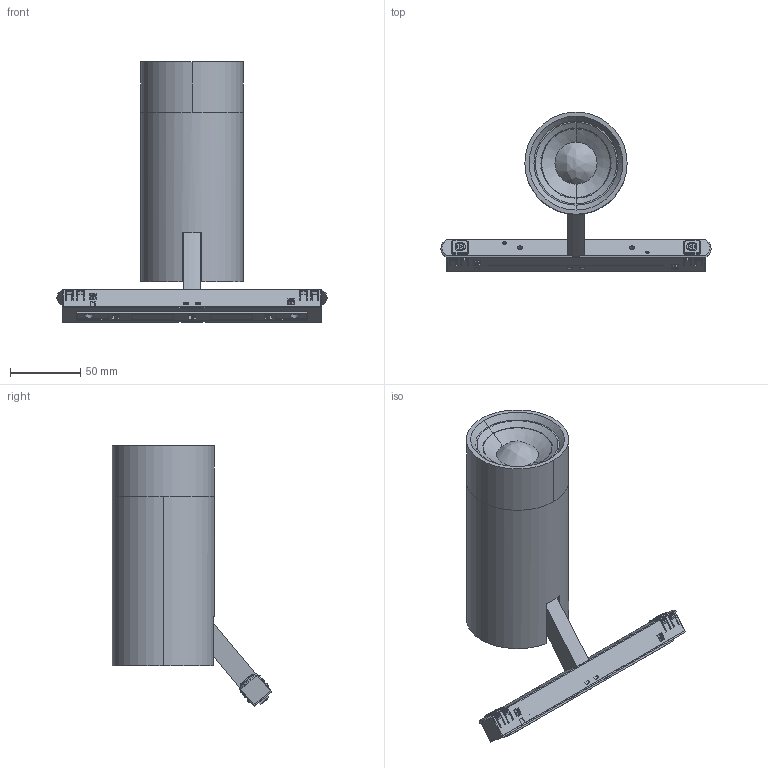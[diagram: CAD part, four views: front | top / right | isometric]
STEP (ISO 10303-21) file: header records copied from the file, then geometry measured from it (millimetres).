
FILE_DESCRIPTION (( 'STEP AP203' ), '1' );
FILE_NAME ('410119.STEP', '2025-04-02T02:38:30', ( '微软用户' ), ( '微软中国' ), 'SwSTEP 2.0', 'SolidWorks 2020', '' );
FILE_SCHEMA (( 'CONFIG_CONTROL_DESIGN' ));
Length unit declared in the file: millimetre
Products named in the file (18): 15X25MM_BAIBI_HUODONG; MANIFOLD_SOLID_BREP_1147; 10-08-G1_1; LVJI_BAN___; MANIFOLD_SOLID_BREP_1148; 10-10-gk-2; 73_GUNHUA_LVJIAN; MANIFOLD_SOLID_BREP_1149; 410119; 66X18MM_NEI_HUAN; MANIFOLD_SOLID_BREP_1150; 50X18MM_TOU_JING; MANIFOLD_SOLID_BREP_1155; MANIFOLD_SOLID_BREP_1145; MANIFOLD_SOLID_BREP_1156; 72_DENG_TONG; MANIFOLD_SOLID_BREP_1146; 10-07-WJ1
Assembly tree (17 placements, depth 3):
  410119
    72_DENG_TONG
    15X25MM_BAIBI_HUODONG
    LVJI_BAN___
    73_GUNHUA_LVJIAN
    66X18MM_NEI_HUAN
    50X18MM_TOU_JING
    10-10-gk-2
      MANIFOLD_SOLID_BREP_1145
      MANIFOLD_SOLID_BREP_1146
      MANIFOLD_SOLID_BREP_1147
      MANIFOLD_SOLID_BREP_1148
      MANIFOLD_SOLID_BREP_1149
      MANIFOLD_SOLID_BREP_1150
      MANIFOLD_SOLID_BREP_1155
      MANIFOLD_SOLID_BREP_1156
      10-07-WJ1
      10-08-G1_1
Bounding box: 192.8 x 113.92 x 186.09 mm (x, y, z)
Volume: 605774 mm3; surface area: 117892.6 mm2
Topology: 20 solids, 20 shells, 1349 faces, 3692 edges, 2416 vertices
Faces by surface type: plane 899, cylinder 284, bspline 109, cone 57
Entity records: 55557 total; most frequent: CARTESIAN_POINT 20792, ORIENTED_EDGE 7384, DIRECTION 5876, EDGE_CURVE 3692, VECTOR 2502, LINE 2502, VERTEX_POINT 2416, AXIS2_PLACEMENT_3D 1687
